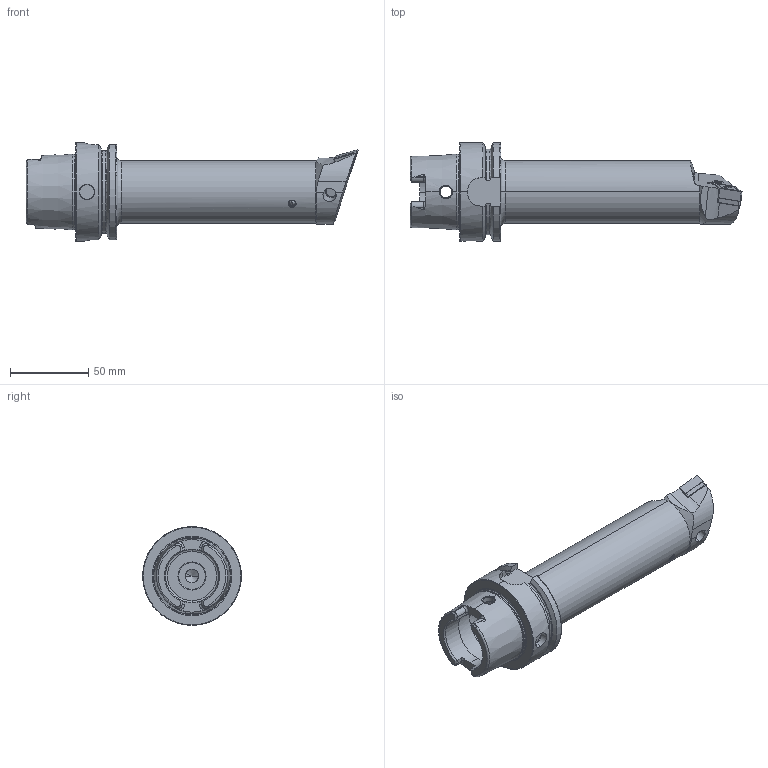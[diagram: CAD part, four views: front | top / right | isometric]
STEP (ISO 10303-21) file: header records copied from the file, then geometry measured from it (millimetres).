
FILE_DESCRIPTION (( 'STEP AP214' ), '1' );
FILE_NAME ('HA6.PDF.LQC.180.STEP', '2020-09-11T06:43:52', ( '' ), ( '' ), 'SwSTEP 2.0', 'SolidWorks 2017', '' );
FILE_SCHEMA (( 'AUTOMOTIVE_DESIGN' ));
Length unit declared in the file: millimetre
Products named in the file (8): WDF-ER3.101.000_A; DNMG150604; KVT_MB_600_050; HA6-PDF.LQC.180_B; WCD-ER4.101.017_A; WCD-ER1.101.000; WDF-ER2.101.003_A; HA6.PDF.LQC.180
Assembly tree (7 placements, depth 2):
  HA6.PDF.LQC.180
    HA6-PDF.LQC.180_B
    KVT_MB_600_050
    WDF-ER3.101.000_A
    WCD-ER4.101.017_A
    WCD-ER1.101.000
    WDF-ER2.101.003_A
    DNMG150604
Bounding box: 211.9 x 63 x 63 mm (x, y, z)
Volume: 249997.7 mm3; surface area: 47702.5 mm2
Topology: 8 solids, 8 shells, 374 faces, 955 edges, 585 vertices
Faces by surface type: plane 118, cylinder 104, cone 94, torus 40, bspline 16, sphere 2
Entity records: 14462 total; most frequent: CARTESIAN_POINT 4275, ORIENTED_EDGE 1876, DIRECTION 1763, EDGE_CURVE 938, AXIS2_PLACEMENT_3D 686, VERTEX_POINT 582, EDGE_LOOP 392, VECTOR 391
